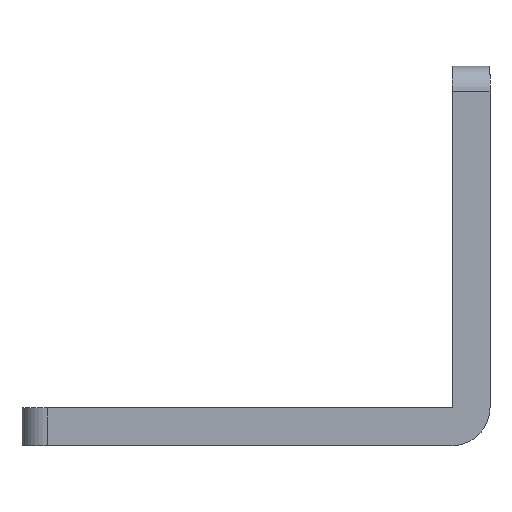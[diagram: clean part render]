
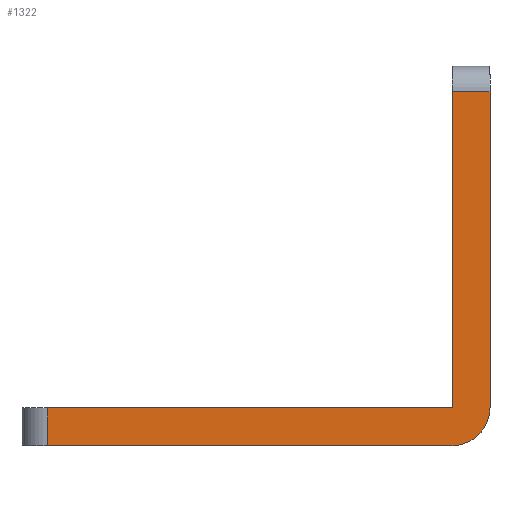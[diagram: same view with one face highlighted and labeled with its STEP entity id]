
A CAD part, front view. The second image highlights one B-rep face of the part: STEP entity #1322.
In plain terms, the highlighted planar face has unit normal (0, -1, 0).
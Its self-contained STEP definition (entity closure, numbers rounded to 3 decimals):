
#4 = VECTOR ( 'NONE', #1323, 1000. ) ;
#25 = CARTESIAN_POINT ( 'NONE',  ( 37., -21.5, 0. ) ) ;
#31 = ORIENTED_EDGE ( 'NONE', *, *, #497, .T. ) ;
#39 = LINE ( 'NONE', #25, #1229 ) ;
#49 = VERTEX_POINT ( 'NONE', #578 ) ;
#51 = ORIENTED_EDGE ( 'NONE', *, *, #1212, .T. ) ;
#61 = ORIENTED_EDGE ( 'NONE', *, *, #1191, .T. ) ;
#100 = VERTEX_POINT ( 'NONE', #390 ) ;
#131 = LINE ( 'NONE', #1018, #1384 ) ;
#138 = LINE ( 'NONE', #1397, #1264 ) ;
#144 = ORIENTED_EDGE ( 'NONE', *, *, #472, .T. ) ;
#186 = EDGE_CURVE ( 'NONE', #1247, #1056, #131, .T. ) ;
#194 = CARTESIAN_POINT ( 'NONE',  ( 34., -21.5, 30. ) ) ;
#205 = EDGE_LOOP ( 'NONE', ( #144, #61, #618, #612, #31, #864, #51, #939 ) ) ;
#211 = DIRECTION ( 'NONE',  ( 0., 0., -1. ) ) ;
#227 = DIRECTION ( 'NONE',  ( 0., 1., 0. ) ) ;
#340 = CARTESIAN_POINT ( 'NONE',  ( 33.99, -21.5, 3.01 ) ) ;
#342 = CARTESIAN_POINT ( 'NONE',  ( 33.99, -21.5, 3. ) ) ;
#360 = CARTESIAN_POINT ( 'NONE',  ( 2., -21.5, 0. ) ) ;
#376 = VERTEX_POINT ( 'NONE', #1244 ) ;
#377 = DIRECTION ( 'NONE',  ( -1., 0., 0. ) ) ;
#390 = CARTESIAN_POINT ( 'NONE',  ( 34., -21.5, 3.012 ) ) ;
#401 = DIRECTION ( 'NONE',  ( 0., 1., 0. ) ) ;
#419 = CARTESIAN_POINT ( 'NONE',  ( 34., -21.5, 28. ) ) ;
#461 = VECTOR ( 'NONE', #377, 1000. ) ;
#472 = EDGE_CURVE ( 'NONE', #989, #1042, #138, .T. ) ;
#497 = EDGE_CURVE ( 'NONE', #1056, #100, #1372, .T. ) ;
#500 = AXIS2_PLACEMENT_3D ( 'NONE', #340, #227, #659 ) ;
#578 = CARTESIAN_POINT ( 'NONE',  ( 2., -21.5, 3. ) ) ;
#587 = LINE ( 'NONE', #1215, #4 ) ;
#612 = ORIENTED_EDGE ( 'NONE', *, *, #186, .T. ) ;
#613 = VERTEX_POINT ( 'NONE', #670 ) ;
#618 = ORIENTED_EDGE ( 'NONE', *, *, #1360, .T. ) ;
#623 = EDGE_CURVE ( 'NONE', #49, #989, #587, .T. ) ;
#633 = CARTESIAN_POINT ( 'NONE',  ( 33.99, -21.5, 3.01 ) ) ;
#657 = FACE_OUTER_BOUND ( 'NONE', #205, .T. ) ;
#659 = DIRECTION ( 'NONE',  ( 0., 0., -1. ) ) ;
#670 = CARTESIAN_POINT ( 'NONE',  ( 37., -21.5, 3.01 ) ) ;
#674 = CIRCLE ( 'NONE', #1019, 3.01 ) ;
#827 = DIRECTION ( 'NONE',  ( 0., 0., -1. ) ) ;
#834 = VECTOR ( 'NONE', #211, 1000. ) ;
#847 = CIRCLE ( 'NONE', #1227, 0.01 ) ;
#859 = CARTESIAN_POINT ( 'NONE',  ( 33.99, -21.5, 3.01 ) ) ;
#864 = ORIENTED_EDGE ( 'NONE', *, *, #1385, .T. ) ;
#879 = LINE ( 'NONE', #342, #461 ) ;
#939 = ORIENTED_EDGE ( 'NONE', *, *, #623, .T. ) ;
#976 = CARTESIAN_POINT ( 'NONE',  ( 33.99, -21.5, 0. ) ) ;
#989 = VERTEX_POINT ( 'NONE', #360 ) ;
#1018 = CARTESIAN_POINT ( 'NONE',  ( 34., -21.5, 28. ) ) ;
#1019 = AXIS2_PLACEMENT_3D ( 'NONE', #859, #1063, #1357 ) ;
#1042 = VERTEX_POINT ( 'NONE', #976 ) ;
#1056 = VERTEX_POINT ( 'NONE', #419 ) ;
#1063 = DIRECTION ( 'NONE',  ( 0., -1., 0. ) ) ;
#1123 = DIRECTION ( 'NONE',  ( -1., 0., 0. ) ) ;
#1142 = CARTESIAN_POINT ( 'NONE',  ( 37., -21.5, 28. ) ) ;
#1189 = DIRECTION ( 'NONE',  ( 1., 0., 0. ) ) ;
#1191 = EDGE_CURVE ( 'NONE', #1042, #613, #674, .T. ) ;
#1212 = EDGE_CURVE ( 'NONE', #376, #49, #879, .T. ) ;
#1215 = CARTESIAN_POINT ( 'NONE',  ( 2., -21.5, 0. ) ) ;
#1227 = AXIS2_PLACEMENT_3D ( 'NONE', #633, #401, #827 ) ;
#1229 = VECTOR ( 'NONE', #1398, 1000. ) ;
#1238 = PLANE ( 'NONE',  #500 ) ;
#1244 = CARTESIAN_POINT ( 'NONE',  ( 33.99, -21.5, 3. ) ) ;
#1247 = VERTEX_POINT ( 'NONE', #1142 ) ;
#1264 = VECTOR ( 'NONE', #1189, 1000. ) ;
#1322 = ADVANCED_FACE ( 'NONE', ( #657 ), #1238, .F. ) ;
#1323 = DIRECTION ( 'NONE',  ( 0., 0., -1. ) ) ;
#1357 = DIRECTION ( 'NONE',  ( 0., 0., -1. ) ) ;
#1360 = EDGE_CURVE ( 'NONE', #613, #1247, #39, .T. ) ;
#1372 = LINE ( 'NONE', #194, #834 ) ;
#1384 = VECTOR ( 'NONE', #1123, 1000. ) ;
#1385 = EDGE_CURVE ( 'NONE', #100, #376, #847, .T. ) ;
#1397 = CARTESIAN_POINT ( 'NONE',  ( 0., -21.5, 0. ) ) ;
#1398 = DIRECTION ( 'NONE',  ( 0., 0., 1. ) ) ;
